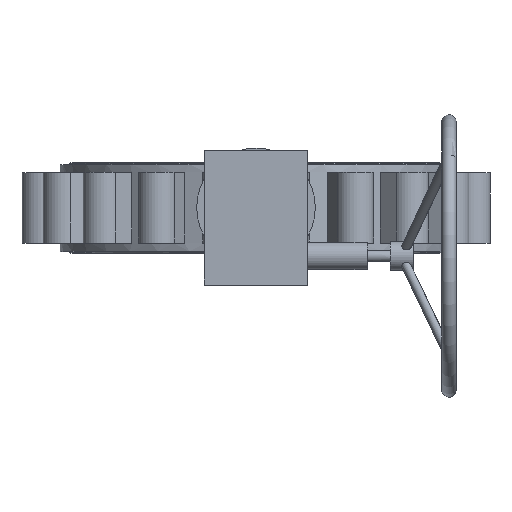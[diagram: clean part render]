
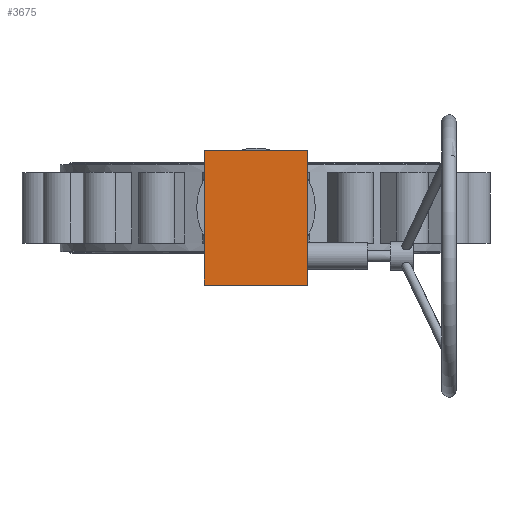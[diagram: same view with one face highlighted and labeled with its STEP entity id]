
A CAD part, top view. The second image highlights one B-rep face of the part: STEP entity #3675.
In plain terms, the highlighted planar face has unit normal (0, 0, 1) as drawn and (0, 1, 0) by its records, which use the part's own axes.
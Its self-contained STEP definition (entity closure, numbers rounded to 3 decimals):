
#216 = LINE ( 'NONE', #3500, #2917 ) ;
#790 = ORIENTED_EDGE ( 'NONE', *, *, #5546, .T. ) ;
#992 = DIRECTION ( 'NONE',  ( 0., 0., -1. ) ) ;
#1158 = DIRECTION ( 'NONE',  ( 0., 0., -1. ) ) ;
#1223 = VERTEX_POINT ( 'NONE', #2677 ) ;
#1244 = CARTESIAN_POINT ( 'NONE',  ( -87.279, 34.32, -118.144 ) ) ;
#1297 = EDGE_CURVE ( 'NONE', #4821, #2122, #3656, .T. ) ;
#1837 = VECTOR ( 'NONE', #3984, 1000. ) ;
#2122 = VERTEX_POINT ( 'NONE', #3742 ) ;
#2378 = ORIENTED_EDGE ( 'NONE', *, *, #3932, .F. ) ;
#2674 = PLANE ( 'NONE',  #5998 ) ;
#2677 = CARTESIAN_POINT ( 'NONE',  ( -87.279, 34.32, 120.662 ) ) ;
#2917 = VECTOR ( 'NONE', #992, 1000. ) ;
#2961 = VERTEX_POINT ( 'NONE', #1244 ) ;
#3161 = LINE ( 'NONE', #6393, #1837 ) ;
#3260 = DIRECTION ( 'NONE',  ( 0., 1., 0. ) ) ;
#3263 = CARTESIAN_POINT ( 'NONE',  ( 96.368, 34.32, 120.662 ) ) ;
#3309 = VECTOR ( 'NONE', #5151, 1000. ) ;
#3500 = CARTESIAN_POINT ( 'NONE',  ( -87.279, 34.32, 120.662 ) ) ;
#3656 = LINE ( 'NONE', #3263, #4797 ) ;
#3675 = ADVANCED_FACE ( 'NONE', ( #5765 ), #2674, .T. ) ;
#3742 = CARTESIAN_POINT ( 'NONE',  ( 96.368, 34.32, -118.144 ) ) ;
#3865 = EDGE_LOOP ( 'NONE', ( #6589, #790, #4753, #2378 ) ) ;
#3878 = LINE ( 'NONE', #4127, #3309 ) ;
#3932 = EDGE_CURVE ( 'NONE', #2961, #2122, #3161, .T. ) ;
#3984 = DIRECTION ( 'NONE',  ( 1., 0., 0. ) ) ;
#4127 = CARTESIAN_POINT ( 'NONE',  ( -87.279, 34.32, 120.662 ) ) ;
#4148 = EDGE_CURVE ( 'NONE', #1223, #2961, #216, .T. ) ;
#4288 = CARTESIAN_POINT ( 'NONE',  ( 4.545, 34.32, 19.207 ) ) ;
#4753 = ORIENTED_EDGE ( 'NONE', *, *, #1297, .T. ) ;
#4785 = DIRECTION ( 'NONE',  ( -1., 0., 0. ) ) ;
#4797 = VECTOR ( 'NONE', #1158, 1000. ) ;
#4821 = VERTEX_POINT ( 'NONE', #5177 ) ;
#5151 = DIRECTION ( 'NONE',  ( 1., 0., 0. ) ) ;
#5177 = CARTESIAN_POINT ( 'NONE',  ( 96.368, 34.32, 120.662 ) ) ;
#5546 = EDGE_CURVE ( 'NONE', #1223, #4821, #3878, .T. ) ;
#5765 = FACE_OUTER_BOUND ( 'NONE', #3865, .T. ) ;
#5998 = AXIS2_PLACEMENT_3D ( 'NONE', #4288, #3260, #4785 ) ;
#6393 = CARTESIAN_POINT ( 'NONE',  ( -87.279, 34.32, -118.144 ) ) ;
#6589 = ORIENTED_EDGE ( 'NONE', *, *, #4148, .F. ) ;
